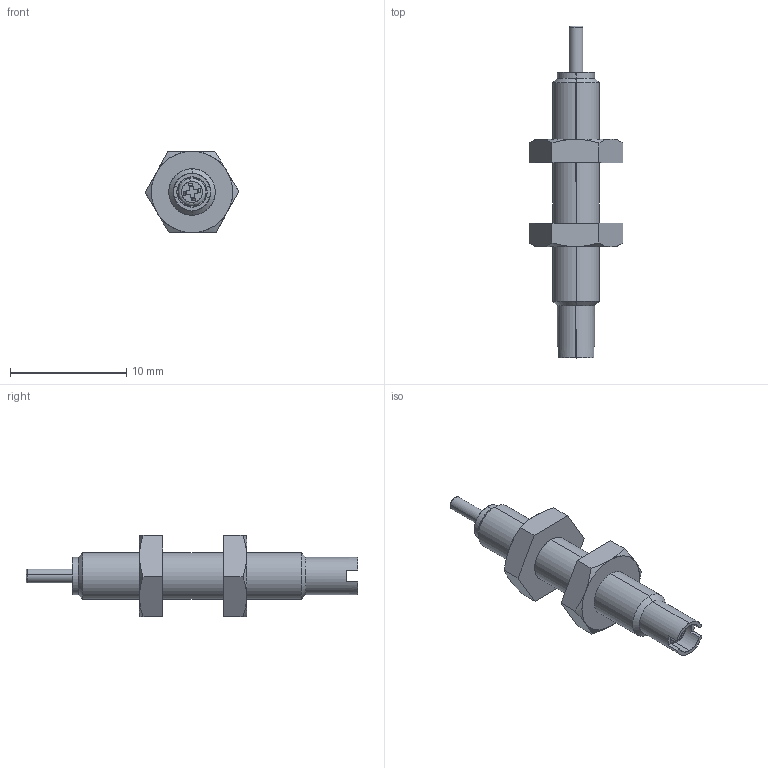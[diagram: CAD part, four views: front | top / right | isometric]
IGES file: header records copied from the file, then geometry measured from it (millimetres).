
Start section: SolidWorks IGES file using analytic representation for surfaces
Bounding box: 8.08 x 28.6 x 7.06 mm (x, y, z)
Surface area: 630.4 mm2 (no closed solid volume)
Topology: 0 solids, 0 shells, 62 faces, 716 edges, 716 vertices
Faces by surface type: bspline 34, revolution 28
